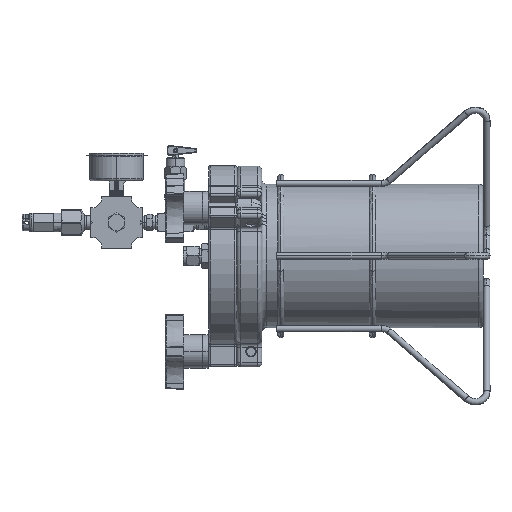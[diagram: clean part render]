
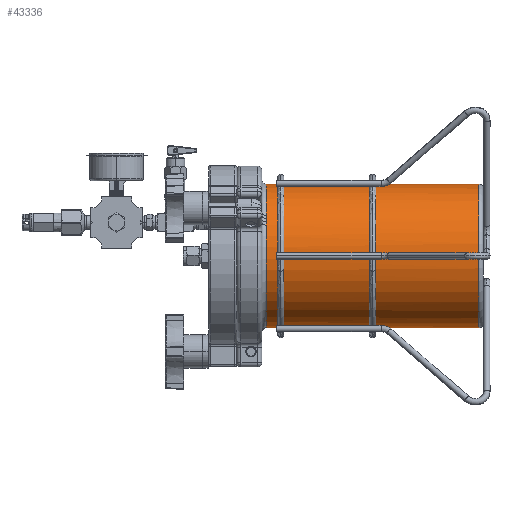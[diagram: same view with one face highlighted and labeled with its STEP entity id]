
A CAD part, left-side view. The second image highlights one B-rep face of the part: STEP entity #43336.
In plain terms, the highlighted cylindrical face has radius 54.483 mm (diameter 108.966 mm), a partial arc.
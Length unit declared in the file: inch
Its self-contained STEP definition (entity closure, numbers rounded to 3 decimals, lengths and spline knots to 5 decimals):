
#26 = EDGE_LOOP ( 'NONE', ( #15221, #59955, #44818, #490, #3340, #12693, #57084, #37005, #49623, #37463 ) ) ;
#76 = CARTESIAN_POINT ( 'NONE',  ( 0., 7.35938, 0. ) ) ;
#490 = ORIENTED_EDGE ( 'NONE', *, *, #64519, .T. ) ;
#818 = CARTESIAN_POINT ( 'NONE',  ( -1.88645, 6.48667, 1.02095 ) ) ;
#2457 = DIRECTION ( 'NONE',  ( 0., 1., 0. ) ) ;
#3340 = ORIENTED_EDGE ( 'NONE', *, *, #40820, .T. ) ;
#3670 = CARTESIAN_POINT ( 'NONE',  ( 0., 6.48438, 0. ) ) ;
#3907 = CARTESIAN_POINT ( 'NONE',  ( -0.05906, 6.48667, -2.14419 ) ) ;
#5704 = CARTESIAN_POINT ( 'NONE',  ( -1.7685, 6.48438, 1.21385 ) ) ;
#8128 = VECTOR ( 'NONE', #30143, 39.37008 ) ;
#8979 = VERTEX_POINT ( 'NONE', #33396 ) ;
#11411 = EDGE_CURVE ( 'NONE', #21240, #66562, #13620, .T. ) ;
#11989 = EDGE_CURVE ( 'NONE', #66562, #25860, #12973, .T. ) ;
#12178 = CIRCLE ( 'NONE', #53984, 2.145 ) ;
#12693 = ORIENTED_EDGE ( 'NONE', *, *, #28187, .T. ) ;
#12973 = CIRCLE ( 'NONE', #56006, 2.145 ) ;
#13091 = FACE_OUTER_BOUND ( 'NONE', #26, .T. ) ;
#13268 = CARTESIAN_POINT ( 'NONE',  ( -1.88645, 6.48667, 1.02095 ) ) ;
#13374 = EDGE_CURVE ( 'NONE', #8979, #62019, #57323, .T. ) ;
#13620 = LINE ( 'NONE', #58479, #8128 ) ;
#14347 = DIRECTION ( 'NONE',  ( 0., 0., 1. ) ) ;
#15221 = ORIENTED_EDGE ( 'NONE', *, *, #34689, .F. ) ;
#15463 = CARTESIAN_POINT ( 'NONE',  ( -0.09507, 6.48611, -2.14297 ) ) ;
#16792 = B_SPLINE_CURVE_WITH_KNOTS ( 'NONE', 3,
 ( #73480, #40260, #44782, #57077, #62315, #67189 ),
 .UNSPECIFIED., .F., .F.,
 ( 4, 2, 4 ),
 ( 0., 0.00137, 0.00275 ),
 .UNSPECIFIED. ) ;
#17625 = CARTESIAN_POINT ( 'NONE',  ( 0., 0.125, -2.145 ) ) ;
#18776 = DIRECTION ( 'NONE',  ( 0., 0., -1. ) ) ;
#19853 = AXIS2_PLACEMENT_3D ( 'NONE', #76, #23634, #18776 ) ;
#20419 = DIRECTION ( 'NONE',  ( 0., -1., 0. ) ) ;
#20512 = VECTOR ( 'NONE', #20419, 39.37008 ) ;
#21209 = VERTEX_POINT ( 'NONE', #818 ) ;
#21240 = VERTEX_POINT ( 'NONE', #40433 ) ;
#22285 = VERTEX_POINT ( 'NONE', #66781 ) ;
#22359 = B_SPLINE_CURVE_WITH_KNOTS ( 'NONE', 3,
 ( #41727, #31632, #64455, #13268 ),
 .UNSPECIFIED., .F., .F.,
 ( 4, 4 ),
 ( 0., 0.003 ),
 .UNSPECIFIED. ) ;
#23369 = CARTESIAN_POINT ( 'NONE',  ( -1.7685, 6.48438, 1.21385 ) ) ;
#23546 = CARTESIAN_POINT ( 'NONE',  ( 0., 0.125, 2.145 ) ) ;
#23634 = DIRECTION ( 'NONE',  ( 0., -1., 0. ) ) ;
#25551 = EDGE_CURVE ( 'NONE', #31833, #21240, #33842, .T. ) ;
#25577 = CARTESIAN_POINT ( 'NONE',  ( -0.14901, 6.48438, -2.13989 ) ) ;
#25860 = VERTEX_POINT ( 'NONE', #23546 ) ;
#26308 = CARTESIAN_POINT ( 'NONE',  ( -0.07708, 6.4866, -2.14369 ) ) ;
#27138 = LINE ( 'NONE', #43579, #20512 ) ;
#27145 = VERTEX_POINT ( 'NONE', #41763 ) ;
#28187 = EDGE_CURVE ( 'NONE', #68151, #22285, #12178, .T. ) ;
#28213 = B_SPLINE_CURVE_WITH_KNOTS ( 'NONE', 3,
 ( #5704, #46061, #57257, #44614, #40458, #28527 ),
 .UNSPECIFIED., .F., .F.,
 ( 4, 2, 4 ),
 ( 0., 0.00137, 0.00275 ),
 .UNSPECIFIED. ) ;
#28527 = CARTESIAN_POINT ( 'NONE',  ( -1.82739, 6.48667, 1.12324 ) ) ;
#29833 = CARTESIAN_POINT ( 'NONE',  ( 0., 6.48438, 0. ) ) ;
#30143 = DIRECTION ( 'NONE',  ( 0., -1., 0. ) ) ;
#31632 = CARTESIAN_POINT ( 'NONE',  ( -1.84802, 6.48683, 1.08968 ) ) ;
#31833 = VERTEX_POINT ( 'NONE', #58974 ) ;
#32809 = DIRECTION ( 'NONE',  ( 0., 0., 1. ) ) ;
#33396 = CARTESIAN_POINT ( 'NONE',  ( 0., 6.48438, 2.145 ) ) ;
#33842 = B_SPLINE_CURVE_WITH_KNOTS ( 'NONE', 3,
 ( #62476, #46659, #36237, #73622 ),
 .UNSPECIFIED., .F., .F.,
 ( 4, 4 ),
 ( 0., 0.0015 ),
 .UNSPECIFIED. ) ;
#34689 = EDGE_CURVE ( 'NONE', #8979, #25860, #27138, .T. ) ;
#34994 = EDGE_CURVE ( 'NONE', #22285, #31833, #64548, .T. ) ;
#36237 = CARTESIAN_POINT ( 'NONE',  ( -0.01969, 6.48679, -2.145 ) ) ;
#37005 = ORIENTED_EDGE ( 'NONE', *, *, #25551, .T. ) ;
#37463 = ORIENTED_EDGE ( 'NONE', *, *, #11989, .T. ) ;
#37655 = DIRECTION ( 'NONE',  ( 0., -1., 0. ) ) ;
#37924 = CARTESIAN_POINT ( 'NONE',  ( 0., 0.125, 0. ) ) ;
#40260 = CARTESIAN_POINT ( 'NONE',  ( -1.89503, 6.4866, 1.0051 ) ) ;
#40433 = CARTESIAN_POINT ( 'NONE',  ( 0., 6.48679, -2.145 ) ) ;
#40458 = CARTESIAN_POINT ( 'NONE',  ( -1.81795, 6.4866, 1.13859 ) ) ;
#40820 = EDGE_CURVE ( 'NONE', #21209, #68151, #16792, .T. ) ;
#41043 = DIRECTION ( 'NONE',  ( 0., -1., 0. ) ) ;
#41727 = CARTESIAN_POINT ( 'NONE',  ( -1.82739, 6.48667, 1.12324 ) ) ;
#41763 = CARTESIAN_POINT ( 'NONE',  ( -1.82739, 6.48667, 1.12324 ) ) ;
#43336 = ADVANCED_FACE ( 'NONE', ( #13091 ), #57964, .T. ) ;
#43579 = CARTESIAN_POINT ( 'NONE',  ( 0., 7.35938, 2.145 ) ) ;
#44614 = CARTESIAN_POINT ( 'NONE',  ( -1.80833, 6.48611, 1.15382 ) ) ;
#44782 = CARTESIAN_POINT ( 'NONE',  ( -1.9034, 6.48611, 0.98915 ) ) ;
#44818 = ORIENTED_EDGE ( 'NONE', *, *, #53446, .T. ) ;
#46061 = CARTESIAN_POINT ( 'NONE',  ( -1.7787, 6.48437, 1.19899 ) ) ;
#46659 = CARTESIAN_POINT ( 'NONE',  ( -0.03937, 6.48675, -2.14473 ) ) ;
#49453 = CARTESIAN_POINT ( 'NONE',  ( -0.16698, 6.48438, -2.13849 ) ) ;
#49623 = ORIENTED_EDGE ( 'NONE', *, *, #11411, .T. ) ;
#53446 = EDGE_CURVE ( 'NONE', #62019, #27145, #28213, .T. ) ;
#53984 = AXIS2_PLACEMENT_3D ( 'NONE', #29833, #41043, #69761 ) ;
#56006 = AXIS2_PLACEMENT_3D ( 'NONE', #37924, #2457, #14347 ) ;
#57077 = CARTESIAN_POINT ( 'NONE',  ( -1.91974, 6.48498, 0.95705 ) ) ;
#57084 = ORIENTED_EDGE ( 'NONE', *, *, #34994, .T. ) ;
#57257 = CARTESIAN_POINT ( 'NONE',  ( -1.7887, 6.48498, 1.18402 ) ) ;
#57323 = CIRCLE ( 'NONE', #59700, 2.145 ) ;
#57964 = CYLINDRICAL_SURFACE ( 'NONE', #19853, 2.145 ) ;
#58479 = CARTESIAN_POINT ( 'NONE',  ( 0., 7.35938, -2.145 ) ) ;
#58974 = CARTESIAN_POINT ( 'NONE',  ( -0.05906, 6.48667, -2.14419 ) ) ;
#59700 = AXIS2_PLACEMENT_3D ( 'NONE', #3670, #37655, #32809 ) ;
#59955 = ORIENTED_EDGE ( 'NONE', *, *, #13374, .T. ) ;
#62019 = VERTEX_POINT ( 'NONE', #23369 ) ;
#62315 = CARTESIAN_POINT ( 'NONE',  ( -1.92771, 6.48438, 0.9409 ) ) ;
#62476 = CARTESIAN_POINT ( 'NONE',  ( -0.05906, 6.48667, -2.14419 ) ) ;
#64455 = CARTESIAN_POINT ( 'NONE',  ( -1.8677, 6.48683, 1.05559 ) ) ;
#64519 = EDGE_CURVE ( 'NONE', #27145, #21209, #22359, .T. ) ;
#64548 = B_SPLINE_CURVE_WITH_KNOTS ( 'NONE', 3,
 ( #49453, #25577, #71471, #15463, #26308, #3907 ),
 .UNSPECIFIED., .F., .F.,
 ( 4, 2, 4 ),
 ( 0., 0.00137, 0.00275 ),
 .UNSPECIFIED. ) ;
#66562 = VERTEX_POINT ( 'NONE', #17625 ) ;
#66781 = CARTESIAN_POINT ( 'NONE',  ( -0.16698, 6.48438, -2.13849 ) ) ;
#67189 = CARTESIAN_POINT ( 'NONE',  ( -1.93548, 6.48438, 0.92464 ) ) ;
#68151 = VERTEX_POINT ( 'NONE', #71506 ) ;
#69761 = DIRECTION ( 'NONE',  ( 0., 0., 1. ) ) ;
#71471 = CARTESIAN_POINT ( 'NONE',  ( -0.13104, 6.48498, -2.14107 ) ) ;
#71506 = CARTESIAN_POINT ( 'NONE',  ( -1.93548, 6.48438, 0.92464 ) ) ;
#73480 = CARTESIAN_POINT ( 'NONE',  ( -1.88645, 6.48667, 1.02095 ) ) ;
#73622 = CARTESIAN_POINT ( 'NONE',  ( 0., 6.48679, -2.145 ) ) ;
